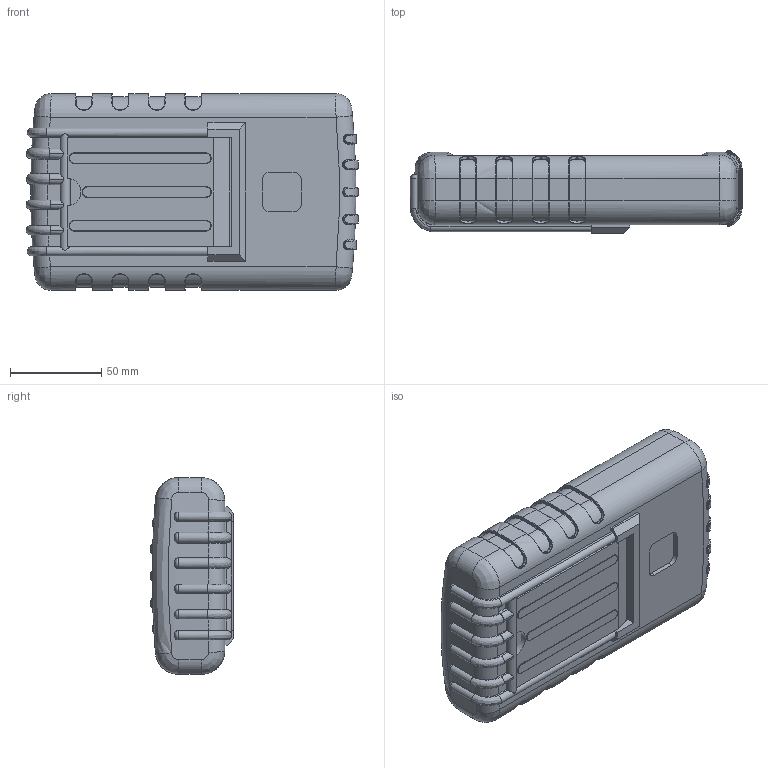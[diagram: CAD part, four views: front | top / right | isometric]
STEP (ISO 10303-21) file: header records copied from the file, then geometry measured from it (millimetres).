
FILE_DESCRIPTION (( 'STEP AP214' ), '1' );
FILE_NAME ('90-43-9V-R-BO.STEP', '2020-10-05T01:24:25', ( 'Rudy' ), ( '' ), 'SwSTEP 2.0', 'SolidWorks 2014', '' );
FILE_SCHEMA (( 'AUTOMOTIVE_DESIGN' ));
Length unit declared in the file: millimetre
Products named in the file (8): 90 RBT; RT 90 stand; 90 PCB 9V; 90-Top Recess; 9V door; 90-9V; 90-43-9V-R-BO
Assembly tree (7 placements, depth 3):
  90-43-9V-R-BO
    90-9V
    9V door
    90-Top Recess
    90 PCB 9V
    90 RBT
      90 RBT
      RT 90 stand
Bounding box: 182.05 x 45.61 x 108 mm (x, y, z)
Volume: 362080.4 mm3; surface area: 205847.8 mm2
Topology: 6 solids, 6 shells, 1278 faces, 3283 edges, 2041 vertices
Faces by surface type: plane 539, cylinder 389, bspline 180, torus 108, cone 46, sphere 16
Entity records: 50871 total; most frequent: CARTESIAN_POINT 20690, ORIENTED_EDGE 6534, DIRECTION 5967, EDGE_CURVE 3267, AXIS2_PLACEMENT_3D 2124, VERTEX_POINT 2033, LINE 1719, VECTOR 1719
